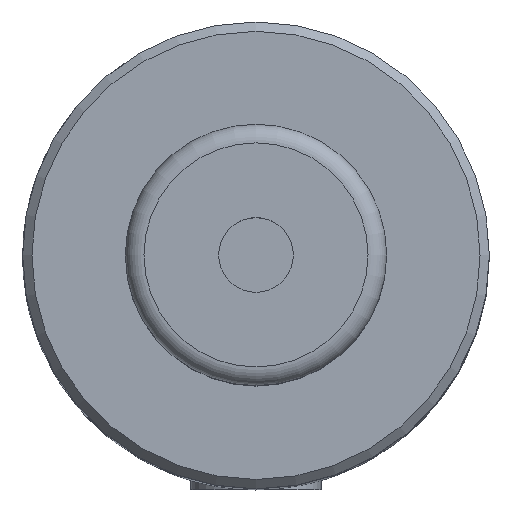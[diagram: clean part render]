
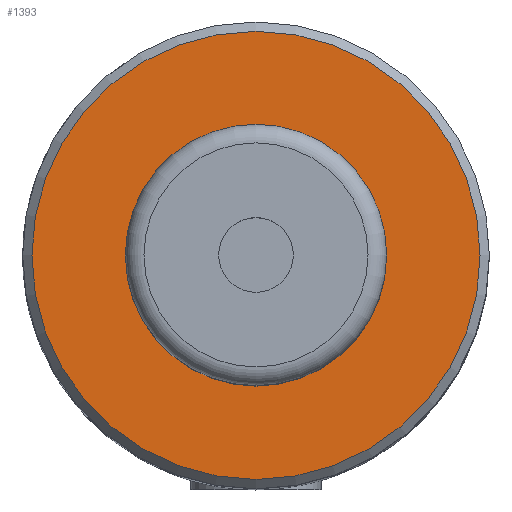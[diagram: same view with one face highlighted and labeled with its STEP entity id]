
A CAD part, top view. The second image highlights one B-rep face of the part: STEP entity #1393.
In plain terms, the highlighted planar face has unit normal (0, 0, 1).
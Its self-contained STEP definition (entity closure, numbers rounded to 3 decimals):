
#1373 = VERTEX_POINT('',#1374);
#1374 = CARTESIAN_POINT('',(24.,0.,74.));
#1382 = EDGE_CURVE('',#1373,#1373,#1383,.T.);
#1383 = CIRCLE('',#1384,24.);
#1384 = AXIS2_PLACEMENT_3D('',#1385,#1386,#1387);
#1385 = CARTESIAN_POINT('',(0.,0.,74.));
#1386 = DIRECTION('',(0.,0.,1.));
#1387 = DIRECTION('',(1.,0.,0.));
#1393 = ADVANCED_FACE('',(#1394),#1397,.T.);
#1394 = FACE_BOUND('',#1395,.T.);
#1395 = EDGE_LOOP('',(#1396));
#1396 = ORIENTED_EDGE('',*,*,#1382,.T.);
#1397 = PLANE('',#1398);
#1398 = AXIS2_PLACEMENT_3D('',#1399,#1400,#1401);
#1399 = CARTESIAN_POINT('',(0.,0.,74.));
#1400 = DIRECTION('',(0.,0.,1.));
#1401 = DIRECTION('',(1.,0.,0.));
